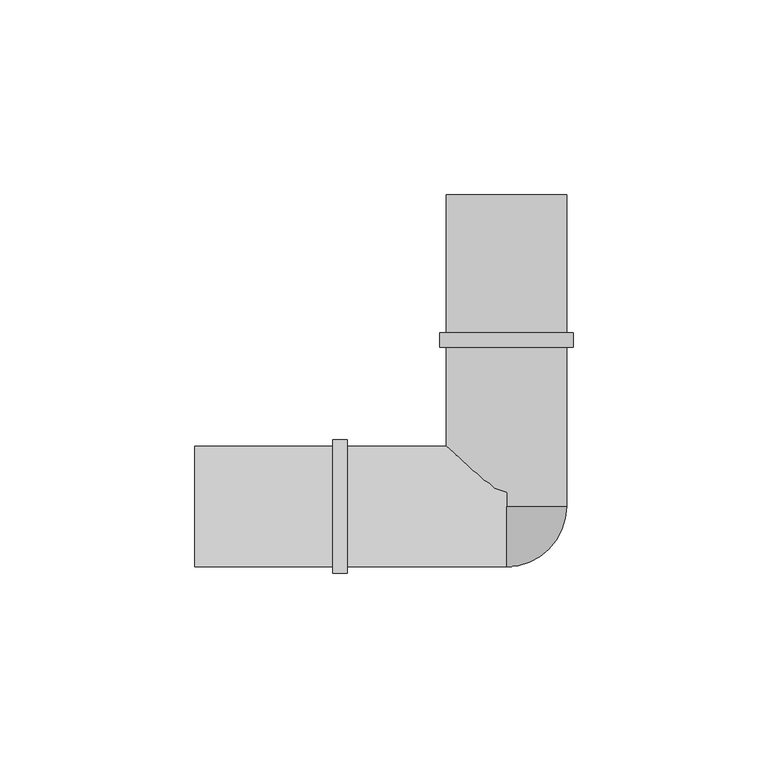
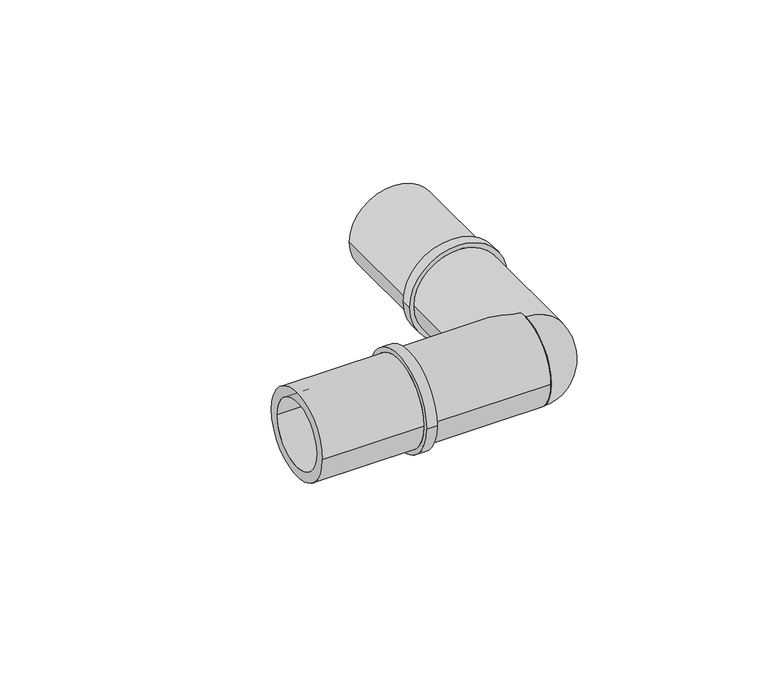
"""IFC4 building model written with IfcOpenShell, lengths in millimetres: pipe fitting geometry, FASTLOC_Corner LX : FSL C LX PL."""

from ifc_helpers import new_model, si_unit, point, frame, origin, place, context, project, spatial, polyline, circle_curve, ellipse_curve, trimmed, source, transform, mapped, element, save
from ifc_brep_helpers import plane_surface, cylinder_surface, revolved_surface, advanced_brep


def pipe_fitting_945405e2(model_context):
    return source(origin(), model_context, "Body", "AdvancedBrep", [
        advanced_brep(
        [(0.0, 0.0, 15.5), (0.0, 0.0, 0.0), (0.0, -15.5, 0.0), (0.0, 0.0, -15.5)],
        [
            (0, 1),
            (1, 2),
            (2, 0, circle_curve(frame((0.0, 0.0, 0.0), z_axis=(-1.0, 0.0, 0.0), x_axis=(0.0, 0.0, 1.0)), 15.5)),
            (3, 2, circle_curve(frame((0.0, 0.0, 0.0), z_axis=(-1.0, 0.0, 0.0), x_axis=(0.0, 0.0, -1.0)), 15.5)),
            (1, 3),
            (0, 3, circle_curve(frame((0.0, 0.0, 0.0), z_axis=(0.0, 1.0, 0.0), x_axis=(0.0, 0.0, 1.0)), 15.5)),
        ],
        [
            plane_surface(frame((0.0, 0.0, 0.0), z_axis=(-1.0, 0.0, 0.0), x_axis=(0.0, 0.0, 1.0))),
            plane_surface(frame((0.0, 0.0, 0.0), z_axis=(-1.0, 0.0, 0.0), x_axis=(0.0, 0.0, -1.0))),
            plane_surface(frame((0.0, 0.0, 0.0), z_axis=(0.0, 1.0, 0.0), x_axis=(0.0, 0.0, 1.0))),
            revolved_surface(trimmed(ellipse_curve(frame((0.0, 0.0, 0.0), z_axis=(-1.0, 0.0, 0.0), x_axis=(0.0, 0.0, 1.0)), 15.5, 15.5), [point((0.0, -15.5, 0.0))], [point((0.0, 0.0, 15.5))], True, "CARTESIAN"), (0.0, 0.0, 0.0), (0.0, 1.0, 0.0)),
        ],
        [
            (0, [[1, 2, 3]]),
            (1, [[4, -2, 5]]),
            (2, [[-1, 6, -5]]),
            (3, [[-6, -3, -4]]),
        ],
    ),
        advanced_brep(
        [(-80.2, 11.95, 0.0), (-80.2, -11.95, 0.0), (0.0, -11.95, 0.0), (0.0, 11.95, 0.0), (-44.7, 15.5, 0.0), (-44.7, -15.5, 0.0), (-80.2, -15.5, 0.0), (-80.2, 15.5, 0.0), (-41.0, 17.2, 0.0), (-41.0, -17.2, 0.0), (-44.7, -17.2, 0.0), (-44.7, 17.2, 0.0), (0.0, 15.5, 0.0), (0.0, -15.5, 0.0), (-41.0, -15.5, 0.0), (-41.0, 15.5, 0.0)],
        [
            (0, 1, circle_curve(frame((-80.2, 0.0, 0.0), z_axis=(-1.0, 0.0, 0.0), x_axis=(0.0, -1.0, 0.0)), 11.95)),
            (1, 2),
            (2, 3, circle_curve(frame((0.0, 0.0, 0.0), z_axis=(1.0, 0.0, 0.0), x_axis=(0.0, -1.0, 0.0)), 11.95)),
            (3, 0),
            (4, 5, circle_curve(frame((-44.7, 0.0, 0.0), z_axis=(-1.0, 0.0, 0.0), x_axis=(0.0, -1.0, 0.0)), 15.5)),
            (5, 6),
            (6, 7, circle_curve(frame((-80.2, 0.0, 0.0), z_axis=(1.0, 0.0, 0.0), x_axis=(0.0, -1.0, 0.0)), 15.5)),
            (7, 4),
            (8, 9, circle_curve(frame((-41.0, 0.0, 0.0), z_axis=(-1.0, 0.0, 0.0), x_axis=(0.0, -1.0, 0.0)), 17.2)),
            (9, 10),
            (10, 11, circle_curve(frame((-44.7, 0.0, 0.0), z_axis=(1.0, 0.0, 0.0), x_axis=(0.0, -1.0, 0.0)), 17.2)),
            (11, 8),
            (12, 13, circle_curve(frame((0.0, 0.0, 0.0), z_axis=(-1.0, 0.0, 0.0), x_axis=(0.0, -1.0, 0.0)), 15.5)),
            (13, 14),
            (14, 15, circle_curve(frame((-41.0, 0.0, 0.0), z_axis=(1.0, 0.0, 0.0), x_axis=(0.0, -1.0, 0.0)), 15.5)),
            (15, 12),
            (1, 0, circle_curve(frame((-80.2, 0.0, 0.0), z_axis=(-1.0, 0.0, 0.0), x_axis=(0.0, 1.0, 0.0)), 11.95)),
            (3, 2, circle_curve(frame((0.0, 0.0, 0.0), z_axis=(1.0, 0.0, 0.0), x_axis=(0.0, 1.0, 0.0)), 11.95)),
            (6, 7, circle_curve(frame((-80.2, 0.0, 0.0), z_axis=(-1.0, 0.0, 0.0), x_axis=(0.0, 1.0, 0.0)), 15.5)),
            (5, 4, circle_curve(frame((-44.7, 0.0, 0.0), z_axis=(-1.0, 0.0, 0.0), x_axis=(0.0, 1.0, 0.0)), 15.5)),
            (10, 11, circle_curve(frame((-44.7, 0.0, 0.0), z_axis=(-1.0, 0.0, 0.0), x_axis=(0.0, 1.0, 0.0)), 17.2)),
            (9, 8, circle_curve(frame((-41.0, 0.0, 0.0), z_axis=(-1.0, 0.0, 0.0), x_axis=(0.0, 1.0, 0.0)), 17.2)),
            (14, 15, circle_curve(frame((-41.0, 0.0, 0.0), z_axis=(-1.0, 0.0, 0.0), x_axis=(0.0, 1.0, 0.0)), 15.5)),
            (13, 12, circle_curve(frame((0.0, 0.0, 0.0), z_axis=(-1.0, 0.0, 0.0), x_axis=(0.0, 1.0, 0.0)), 15.5)),
        ],
        [
            revolved_surface(polyline([(0.0, -11.95, 0.0), (-80.2, -11.95, 0.0)]), (0.0, 0.0, 0.0), (1.0, 0.0, 0.0)),
            cylinder_surface(frame((0.0, 0.0, 0.0), z_axis=(1.0, 0.0, 0.0), x_axis=(0.0, -1.0, 0.0)), 15.5),
            cylinder_surface(frame((0.0, 0.0, 0.0), z_axis=(1.0, 0.0, 0.0), x_axis=(0.0, -1.0, 0.0)), 17.2),
            revolved_surface(polyline([(0.0, 11.95, 0.0), (-80.2, 11.95, 0.0)]), (0.0, 0.0, 0.0), (1.0, 0.0, 0.0)),
            plane_surface(frame((-80.2, 0.0, 0.0), z_axis=(-1.0, 0.0, 0.0), x_axis=(0.0, 1.0, 0.0))),
            cylinder_surface(frame((0.0, 0.0, 0.0), z_axis=(1.0, 0.0, 0.0), x_axis=(0.0, 1.0, 0.0)), 15.5),
            plane_surface(frame((-44.7, 0.0, 0.0), z_axis=(-1.0, 0.0, 0.0), x_axis=(0.0, 1.0, 0.0))),
            cylinder_surface(frame((0.0, 0.0, 0.0), z_axis=(1.0, 0.0, 0.0), x_axis=(0.0, 1.0, 0.0)), 17.2),
            plane_surface(frame((-41.0, 0.0, 0.0), z_axis=(1.0, 0.0, 0.0), x_axis=(0.0, 1.0, 0.0))),
            plane_surface(frame((0.0, 0.0, 0.0), z_axis=(1.0, 0.0, 0.0), x_axis=(0.0, 1.0, 0.0))),
        ],
        [
            (0, [[1, 2, 3, 4]]),
            (1, [[5, 6, 7, 8]]),
            (2, [[9, 10, 11, 12]]),
            (1, [[13, 14, 15, 16]]),
            (3, [[17, -4, 18, -2]]),
            (4, [[19, -7], [-17, -1]]),
            (5, [[20, -8, -19, -6]]),
            (6, [[21, -11], [-20, -5]]),
            (7, [[22, -12, -21, -10]]),
            (8, [[-22, -9], [23, -15]]),
            (5, [[24, -16, -23, -14]]),
            (9, [[-24, -13], [-18, -3]]),
        ],
    ),
        advanced_brep(
        [(11.95, 80.2, 0.0), (-11.95, 80.2, 0.0), (-11.95, 0.0, 0.0), (11.95, 0.0, 0.0), (15.5, 44.7, 0.0), (-15.5, 44.7, 0.0), (-15.5, 80.2, 0.0), (15.5, 80.2, 0.0), (17.2, 41.0, 0.0), (-17.2, 41.0, 0.0), (-17.2, 44.7, 0.0), (17.2, 44.7, 0.0), (15.5, 0.0, 0.0), (-15.5, 0.0, 0.0), (-15.5, 41.0, 0.0), (15.5, 41.0, 0.0)],
        [
            (0, 1, circle_curve(frame((0.0, 80.2, 0.0), z_axis=(0.0, 1.0, 0.0), x_axis=(-1.0, 0.0, 0.0)), 11.95)),
            (1, 2),
            (2, 3, circle_curve(frame((0.0, 0.0, 0.0), z_axis=(0.0, -1.0, 0.0), x_axis=(-1.0, 0.0, 0.0)), 11.95)),
            (3, 0),
            (4, 5, circle_curve(frame((0.0, 44.7, 0.0), z_axis=(0.0, 1.0, 0.0), x_axis=(-1.0, 0.0, 0.0)), 15.5)),
            (5, 6),
            (6, 7, circle_curve(frame((0.0, 80.2, 0.0), z_axis=(0.0, -1.0, 0.0), x_axis=(-1.0, 0.0, 0.0)), 15.5)),
            (7, 4),
            (8, 9, circle_curve(frame((0.0, 41.0, 0.0), z_axis=(0.0, 1.0, 0.0), x_axis=(-1.0, 0.0, 0.0)), 17.2)),
            (9, 10),
            (10, 11, circle_curve(frame((0.0, 44.7, 0.0), z_axis=(0.0, -1.0, 0.0), x_axis=(-1.0, 0.0, 0.0)), 17.2)),
            (11, 8),
            (12, 13, circle_curve(frame((0.0, 0.0, 0.0), z_axis=(0.0, 1.0, 0.0), x_axis=(-1.0, 0.0, 0.0)), 15.5)),
            (13, 14),
            (14, 15, circle_curve(frame((0.0, 41.0, 0.0), z_axis=(0.0, -1.0, 0.0), x_axis=(-1.0, 0.0, 0.0)), 15.5)),
            (15, 12),
            (1, 0, circle_curve(frame((0.0, 80.2, 0.0), z_axis=(0.0, 1.0, 0.0), x_axis=(1.0, 0.0, 0.0)), 11.95)),
            (3, 2, circle_curve(frame((0.0, 0.0, 0.0), z_axis=(0.0, -1.0, 0.0), x_axis=(1.0, 0.0, 0.0)), 11.95)),
            (6, 7, circle_curve(frame((0.0, 80.2, 0.0), z_axis=(0.0, 1.0, 0.0), x_axis=(1.0, 0.0, 0.0)), 15.5)),
            (5, 4, circle_curve(frame((0.0, 44.7, 0.0), z_axis=(0.0, 1.0, 0.0), x_axis=(1.0, 0.0, 0.0)), 15.5)),
            (10, 11, circle_curve(frame((0.0, 44.7, 0.0), z_axis=(0.0, 1.0, 0.0), x_axis=(1.0, 0.0, 0.0)), 17.2)),
            (9, 8, circle_curve(frame((0.0, 41.0, 0.0), z_axis=(0.0, 1.0, 0.0), x_axis=(1.0, 0.0, 0.0)), 17.2)),
            (14, 15, circle_curve(frame((0.0, 41.0, 0.0), z_axis=(0.0, 1.0, 0.0), x_axis=(1.0, 0.0, 0.0)), 15.5)),
            (13, 12, circle_curve(frame((0.0, 0.0, 0.0), z_axis=(0.0, 1.0, 0.0), x_axis=(1.0, 0.0, 0.0)), 15.5)),
        ],
        [
            revolved_surface(polyline([(-11.95, 0.0, 0.0), (-11.95, 80.2, 0.0)]), (0.0, 0.0, 0.0), (0.0, -1.0, 0.0)),
            cylinder_surface(frame((0.0, 0.0, 0.0), z_axis=(0.0, -1.0, 0.0), x_axis=(-1.0, 0.0, 0.0)), 15.5),
            cylinder_surface(frame((0.0, 0.0, 0.0), z_axis=(0.0, -1.0, 0.0), x_axis=(-1.0, 0.0, 0.0)), 17.2),
            revolved_surface(polyline([(11.95, 0.0, 0.0), (11.95, 80.2, 0.0)]), (0.0, 0.0, 0.0), (0.0, -1.0, 0.0)),
            plane_surface(frame((0.0, 80.2, 0.0), z_axis=(0.0, 1.0, 0.0), x_axis=(1.0, 0.0, 0.0))),
            cylinder_surface(frame((0.0, 0.0, 0.0), z_axis=(0.0, -1.0, 0.0), x_axis=(1.0, 0.0, 0.0)), 15.5),
            plane_surface(frame((0.0, 44.7, 0.0), z_axis=(0.0, 1.0, 0.0), x_axis=(1.0, 0.0, 0.0))),
            cylinder_surface(frame((0.0, 0.0, 0.0), z_axis=(0.0, -1.0, 0.0), x_axis=(1.0, 0.0, 0.0)), 17.2),
            plane_surface(frame((0.0, 41.0, 0.0), z_axis=(0.0, -1.0, 0.0), x_axis=(1.0, 0.0, 0.0))),
            plane_surface(frame((0.0, 0.0, 0.0), z_axis=(0.0, -1.0, 0.0), x_axis=(1.0, 0.0, 0.0))),
        ],
        [
            (0, [[1, 2, 3, 4]]),
            (1, [[5, 6, 7, 8]]),
            (2, [[9, 10, 11, 12]]),
            (1, [[13, 14, 15, 16]]),
            (3, [[17, -4, 18, -2]]),
            (4, [[19, -7], [-17, -1]]),
            (5, [[20, -8, -19, -6]]),
            (6, [[21, -11], [-20, -5]]),
            (7, [[22, -12, -21, -10]]),
            (8, [[-22, -9], [23, -15]]),
            (5, [[24, -16, -23, -14]]),
            (9, [[-24, -13], [-18, -3]]),
        ],
    ),
    ])


if __name__ == "__main__":
    model = new_model("IFC4")
    model_context = context("Model", 3, world=origin())
    ifc_project = project(units=[si_unit("LENGTHUNIT", "METRE", prefix="MILLI")], contexts=[model_context])
    site = spatial("IfcSite", under=ifc_project)
    building = spatial("IfcBuilding", under=site)
    placement = place(None, origin())
    pipe_fitting_shape = pipe_fitting_945405e2(model_context)
    element("IfcPipeFitting", 1, ObjectType="FASTLOC_Corner LX : FSL C LX PL", at=placement, inside=building, context=model_context, shape_type="MappedRepresentation", body=[
        mapped(pipe_fitting_shape, transform((0.0, 0.0, 0.0), x_axis=(1.0, 0.0, 0.0), y_axis=(0.0, 1.0, 0.0), z_axis=(0.0, 0.0, 1.0))),
    ])
    save(model, "model.ifc")
